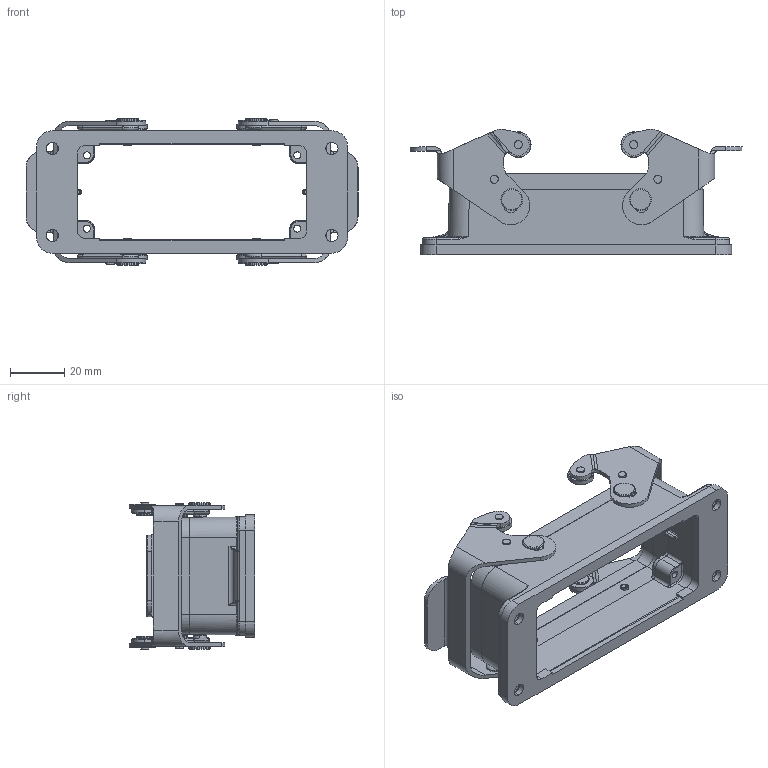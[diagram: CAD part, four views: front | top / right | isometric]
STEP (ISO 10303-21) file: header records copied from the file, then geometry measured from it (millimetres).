
FILE_DESCRIPTION (( 'STEP AP203' ), '1' );
FILE_NAME ('H16B-AG.STEP', '2020-06-22T09:10:02', ( '' ), ( '' ), 'SwSTEP 2.0', 'SolidWorks 2016', '' );
FILE_SCHEMA (( 'CONFIG_CONTROL_DESIGN' ));
Length unit declared in the file: millimetre
Products named in the file (10): H16B-AG; h16bmifengdian; maoding; tanhuang; maoding1; kahuan; h16b-ag; 24bcaixinshuangkou; h16bmifengquan
Assembly tree (16 placements, depth 3):
  H16B-AG
    h16bmifengquan
    24bcaixinshuangkou  x2
      24bcaixinshuangkou
      kahuan
      tanhuang
      maoding
      maoding1
    h16b-ag
    h16bmifengdian
Bounding box: 122.31 x 46.27 x 54 mm (x, y, z)
Volume: 45466.9 mm3; surface area: 42923.9 mm2
Topology: 25 solids, 25 shells, 1082 faces, 2542 edges, 1542 vertices
Faces by surface type: cylinder 389, bspline 328, plane 269, cone 96
Entity records: 31766 total; most frequent: CARTESIAN_POINT 16296, ORIENTED_EDGE 3430, DIRECTION 2237, EDGE_CURVE 1715, VERTEX_POINT 1044, AXIS2_PLACEMENT_3D 776, EDGE_LOOP 773, ADVANCED_FACE 704
